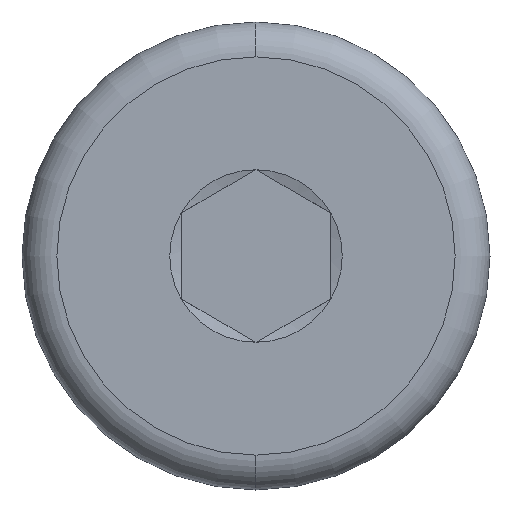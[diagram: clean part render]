
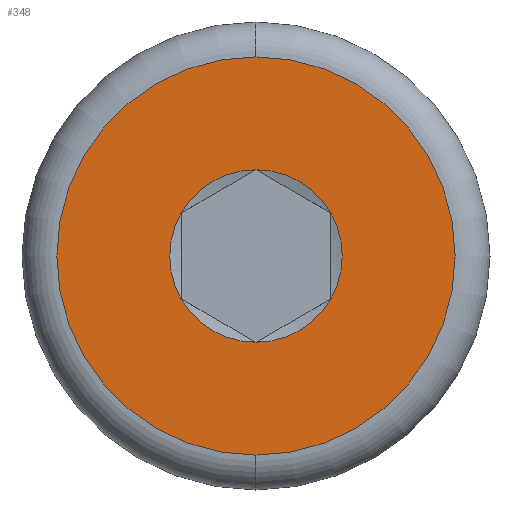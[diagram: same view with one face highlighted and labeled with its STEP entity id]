
A CAD part, left-side view. The second image highlights one B-rep face of the part: STEP entity #348.
In plain terms, the highlighted planar face has unit normal (-1, 0, 0).
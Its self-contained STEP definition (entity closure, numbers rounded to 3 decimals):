
#8 = DIRECTION ( 'NONE',  ( 1., 0., 0. ) ) ;
#25 = CARTESIAN_POINT ( 'NONE',  ( 0., 1.5, -0.866 ) ) ;
#37 = DIRECTION ( 'NONE',  ( 1., 0., 0. ) ) ;
#45 = CARTESIAN_POINT ( 'NONE',  ( 0., 0., 0. ) ) ;
#47 = CARTESIAN_POINT ( 'NONE',  ( 0., 0., 0. ) ) ;
#50 = PLANE ( 'NONE',  #162 ) ;
#61 = ORIENTED_EDGE ( 'NONE', *, *, #303, .T. ) ;
#62 = AXIS2_PLACEMENT_3D ( 'NONE', #462, #37, #98 ) ;
#65 = VERTEX_POINT ( 'NONE', #175 ) ;
#72 = EDGE_CURVE ( 'NONE', #202, #65, #316, .T. ) ;
#98 = DIRECTION ( 'NONE',  ( 0., 0., -1. ) ) ;
#104 = EDGE_CURVE ( 'NONE', #657, #635, #675, .T. ) ;
#123 = ORIENTED_EDGE ( 'NONE', *, *, #530, .T. ) ;
#134 = DIRECTION ( 'NONE',  ( 1., 0., 0. ) ) ;
#135 = CARTESIAN_POINT ( 'NONE',  ( 0., 1.5, 0.866 ) ) ;
#147 = EDGE_CURVE ( 'NONE', #635, #611, #154, .T. ) ;
#154 = CIRCLE ( 'NONE', #434, 1.732 ) ;
#155 = DIRECTION ( 'NONE',  ( 0., 0., -1. ) ) ;
#162 = AXIS2_PLACEMENT_3D ( 'NONE', #358, #558, #497 ) ;
#173 = CARTESIAN_POINT ( 'NONE',  ( 0., 0., -1.732 ) ) ;
#175 = CARTESIAN_POINT ( 'NONE',  ( 0., 0., 1.732 ) ) ;
#187 = AXIS2_PLACEMENT_3D ( 'NONE', #427, #8, #634 ) ;
#202 = VERTEX_POINT ( 'NONE', #135 ) ;
#207 = FACE_OUTER_BOUND ( 'NONE', #502, .T. ) ;
#217 = DIRECTION ( 'NONE',  ( 1., 0., 0. ) ) ;
#223 = DIRECTION ( 'NONE',  ( 0., 0., -1. ) ) ;
#235 = ORIENTED_EDGE ( 'NONE', *, *, #72, .T. ) ;
#236 = DIRECTION ( 'NONE',  ( 0., 0., -1. ) ) ;
#238 = ORIENTED_EDGE ( 'NONE', *, *, #598, .F. ) ;
#260 = DIRECTION ( 'NONE',  ( 1., 0., 0. ) ) ;
#269 = CARTESIAN_POINT ( 'NONE',  ( 0., 0., 4. ) ) ;
#277 = CARTESIAN_POINT ( 'NONE',  ( 0., -1.5, 0.866 ) ) ;
#283 = DIRECTION ( 'NONE',  ( 0., 0., -1. ) ) ;
#303 = EDGE_CURVE ( 'NONE', #65, #618, #364, .T. ) ;
#305 = CIRCLE ( 'NONE', #471, 1.732 ) ;
#308 = AXIS2_PLACEMENT_3D ( 'NONE', #328, #433, #236 ) ;
#316 = CIRCLE ( 'NONE', #383, 1.732 ) ;
#322 = CIRCLE ( 'NONE', #504, 1.732 ) ;
#328 = CARTESIAN_POINT ( 'NONE',  ( 0., 0., 0. ) ) ;
#336 = CARTESIAN_POINT ( 'NONE',  ( 0., 0., 0. ) ) ;
#344 = DIRECTION ( 'NONE',  ( 0., 0., -1. ) ) ;
#348 = ADVANCED_FACE ( 'NONE', ( #459, #207 ), #50, .T. ) ;
#358 = CARTESIAN_POINT ( 'NONE',  ( 0., 0., 0. ) ) ;
#364 = CIRCLE ( 'NONE', #62, 1.732 ) ;
#368 = DIRECTION ( 'NONE',  ( 1., 0., 0. ) ) ;
#376 = VERTEX_POINT ( 'NONE', #626 ) ;
#381 = EDGE_CURVE ( 'NONE', #428, #376, #660, .T. ) ;
#383 = AXIS2_PLACEMENT_3D ( 'NONE', #45, #368, #566 ) ;
#392 = CARTESIAN_POINT ( 'NONE',  ( 0., 0., 0. ) ) ;
#406 = ORIENTED_EDGE ( 'NONE', *, *, #104, .T. ) ;
#427 = CARTESIAN_POINT ( 'NONE',  ( 0., 0., 0. ) ) ;
#428 = VERTEX_POINT ( 'NONE', #269 ) ;
#433 = DIRECTION ( 'NONE',  ( 1., 0., 0. ) ) ;
#434 = AXIS2_PLACEMENT_3D ( 'NONE', #392, #435, #283 ) ;
#435 = DIRECTION ( 'NONE',  ( 1., 0., 0. ) ) ;
#457 = EDGE_LOOP ( 'NONE', ( #235, #61, #540, #406, #498, #123 ) ) ;
#459 = FACE_BOUND ( 'NONE', #457, .T. ) ;
#462 = CARTESIAN_POINT ( 'NONE',  ( 0., 0., 0. ) ) ;
#465 = ORIENTED_EDGE ( 'NONE', *, *, #381, .F. ) ;
#471 = AXIS2_PLACEMENT_3D ( 'NONE', #336, #134, #344 ) ;
#491 = CIRCLE ( 'NONE', #308, 4. ) ;
#497 = DIRECTION ( 'NONE',  ( 0., 0., 1. ) ) ;
#498 = ORIENTED_EDGE ( 'NONE', *, *, #147, .T. ) ;
#502 = EDGE_LOOP ( 'NONE', ( #238, #465 ) ) ;
#504 = AXIS2_PLACEMENT_3D ( 'NONE', #633, #217, #223 ) ;
#530 = EDGE_CURVE ( 'NONE', #611, #202, #322, .T. ) ;
#540 = ORIENTED_EDGE ( 'NONE', *, *, #661, .T. ) ;
#558 = DIRECTION ( 'NONE',  ( -1., 0., 0. ) ) ;
#566 = DIRECTION ( 'NONE',  ( 0., 0., -1. ) ) ;
#591 = CARTESIAN_POINT ( 'NONE',  ( 0., -1.5, -0.866 ) ) ;
#598 = EDGE_CURVE ( 'NONE', #376, #428, #491, .T. ) ;
#611 = VERTEX_POINT ( 'NONE', #25 ) ;
#618 = VERTEX_POINT ( 'NONE', #277 ) ;
#620 = AXIS2_PLACEMENT_3D ( 'NONE', #47, #260, #155 ) ;
#626 = CARTESIAN_POINT ( 'NONE',  ( 0., 0., -4. ) ) ;
#633 = CARTESIAN_POINT ( 'NONE',  ( 0., 0., 0. ) ) ;
#634 = DIRECTION ( 'NONE',  ( 0., 0., -1. ) ) ;
#635 = VERTEX_POINT ( 'NONE', #173 ) ;
#657 = VERTEX_POINT ( 'NONE', #591 ) ;
#660 = CIRCLE ( 'NONE', #620, 4. ) ;
#661 = EDGE_CURVE ( 'NONE', #618, #657, #305, .T. ) ;
#675 = CIRCLE ( 'NONE', #187, 1.732 ) ;
